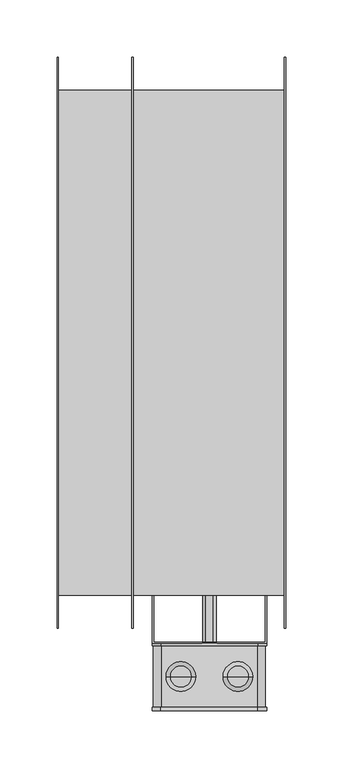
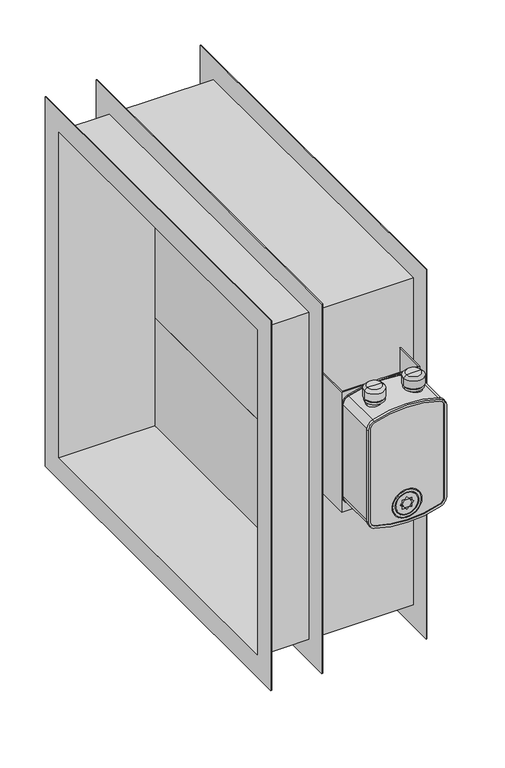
"""IFC4 building model written with IfcOpenShell, lengths in millimetres: damper geometry, СВ_КлапанПротивопожарныйЛифтовой_КДМ-2М-3-ЛС_НЗ_КанальныйПрямоугольный_СВОК : КДМ-3_Привод FS."""

from ifc_helpers import new_model, si_unit, point, frame, frame_2d, origin, place, context, project, spatial, polyline, circle_curve, trimmed, segment, composite_curve, outline, extrude, faceted_brep, source, transform, mapped, element, save
from ifc_brep_helpers import plane_surface, cylinder_surface, revolved_surface, advanced_brep


def damper_6541aed5(model_context):
    return source(origin(), model_context, "Body", "SolidModel", [
        extrude(outline(polyline([(43.3, -220.0), (23.3, -220.0), (23.3, 220.0), (43.3, 220.0), (43.3, -220.0)])), frame((0.0, 0.0, 73.3333333), z_axis=(0.0, 0.0, 1.0), x_axis=(1.0, 0.0, 0.0)), (0.0, 0.0, 1.0), 146.6666667),
        extrude(outline(polyline([(43.3, -220.0), (23.3, -220.0), (23.3, 220.0), (43.3, 220.0), (43.3, -220.0)])), frame((0.0, 0.0, -73.3333333), z_axis=(0.0, 0.0, 1.0), x_axis=(1.0, 0.0, 0.0)), (0.0, 0.0, 1.0), 146.6666667),
        extrude(outline(polyline([(43.3, -220.0), (23.3, -220.0), (23.3, 220.0), (43.3, 220.0), (43.3, -220.0)])), frame((0.0, 0.0, -220.0), z_axis=(0.0, 0.0, 1.0), x_axis=(1.0, 0.0, 0.0)), (0.0, 0.0, 1.0), 146.6666667),
        extrude(outline(polyline([(-15.5298911, -221.2), (-15.5298911, -262.0), (82.1, -262.0), (82.1, -221.2), (83.3, -221.2), (83.3, -263.2), (-16.7298911, -263.2), (-16.7298911, -221.2), (-15.5298911, -221.2)])), frame((0.0, 0.0, -30.0), z_axis=(0.0, 0.0, 1.0), x_axis=(1.0, 0.0, 0.0)), (0.0, 0.0, 1.0), 162.5),
        extrude(outline(composite_curve([segment(polyline([(116.1260091, -16.7298911), (-8.1260091, -16.7298911)]), True, "CONTINUOUS"), segment(trimmed(circle_curve(frame_2d((-8.1260091, -5.7)), 11.0298911), [point((-8.1260091, -16.7298911))], [point((-18.5819866, -9.2115572))], False, "CARTESIAN"), True, "CONTINUOUS"), segment(trimmed(circle_curve(frame_2d((108.0, 33.3)), 133.5298911), [point((-18.5819866, -9.2115572))], [point((-18.5819866, 75.8115572))], False, "CARTESIAN"), True, "CONTINUOUS"), segment(trimmed(circle_curve(frame_2d((-8.1260091, 72.3)), 11.0298911), [point((-18.5819866, 75.8115572))], [point((-8.1260091, 83.3298911))], False, "CARTESIAN"), True, "CONTINUOUS"), segment(polyline([(-8.1260091, 83.3298911), (116.1260091, 83.3298911)]), True, "CONTINUOUS"), segment(trimmed(circle_curve(frame_2d((116.1260091, 72.3)), 11.0298911), [point((116.1260091, 83.3298911))], [point((126.5819866, 75.8115572))], False, "CARTESIAN"), True, "CONTINUOUS"), segment(trimmed(circle_curve(frame_2d((0.0, 33.3)), 133.5298911), [point((126.5819866, 75.8115572))], [point((126.5819866, -9.2115572))], False, "CARTESIAN"), True, "CONTINUOUS"), segment(trimmed(circle_curve(frame_2d((116.1260091, -5.7)), 11.0298911), [point((126.5819866, -9.2115572))], [point((116.1260091, -16.7298911))], False, "CARTESIAN"), True, "CONTINUOUS")], self_intersect=False), holes=[composite_curve([segment(trimmed(circle_curve(frame_2d((108.0, 33.3)), 132.5), [point((-17.6056834, 75.4836735))], [point((-17.6056834, -8.8836735))], True, "CARTESIAN"), True, "CONTINUOUS"), segment(trimmed(circle_curve(frame_2d((-8.1260091, -5.7)), 10.0), [point((-17.6056834, -8.8836735))], [point((-8.1260091, -15.7))], True, "CARTESIAN"), True, "CONTINUOUS"), segment(polyline([(-8.1260091, -15.7), (116.1260091, -15.7)]), True, "CONTINUOUS"), segment(trimmed(circle_curve(frame_2d((116.1260091, -5.7)), 10.0), [point((116.1260091, -15.7))], [point((125.6056834, -8.8836735))], True, "CARTESIAN"), True, "CONTINUOUS"), segment(trimmed(circle_curve(frame_2d((0.0, 33.3)), 132.5), [point((125.6056834, -8.8836735))], [point((125.6056834, 75.4836735))], True, "CARTESIAN"), True, "CONTINUOUS"), segment(trimmed(circle_curve(frame_2d((116.1260091, 72.3)), 10.0), [point((125.6056834, 75.4836735))], [point((116.1260091, 82.3))], True, "CARTESIAN"), True, "CONTINUOUS"), segment(polyline([(116.1260091, 82.3), (-8.1260091, 82.3)]), True, "CONTINUOUS"), segment(trimmed(circle_curve(frame_2d((-8.1260091, 72.3)), 10.0), [point((-8.1260091, 82.3))], [point((-17.6056834, 75.4836735))], True, "CARTESIAN"), True, "CONTINUOUS")], self_intersect=False)]), frame((0.0, -265.2, 0.0), z_axis=(0.0, 1.0, 0.0), x_axis=(0.0, 0.0, 1.0)), (0.0, 0.0, 1.0), 2.0),
        advanced_brep(
        [(-8.8836735, -319.2, -17.6056834), (-15.7, -319.2, -8.1260091), (-15.7, -321.2, -8.1260091), (-8.8836735, -321.2, -17.6056834), (-9.2115572, -322.2, -18.5819866), (-16.7298911, -322.2, -8.1260091), (-16.7298911, -319.2, -8.1260091), (-9.2115572, -319.2, -18.5819866), (-8.2469388, -321.2, -15.7097485), (-13.7, -321.2, -8.1260091), (-13.7, -322.2, -8.1260091), (-8.2469388, -322.2, -15.7097485), (75.4836735, -319.2, -17.6056834), (75.4836735, -321.2, -17.6056834), (75.8115572, -322.2, -18.5819866), (75.8115572, -319.2, -18.5819866), (74.8469388, -321.2, -15.7097485), (74.8469388, -322.2, -15.7097485), (82.3, -319.2, -8.1260091), (82.3, -321.2, -8.1260091), (83.3298911, -322.2, -8.1260091), (83.3298911, -319.2, -8.1260091), (80.3, -321.2, -8.1260091), (80.3, -322.2, -8.1260091), (82.3, -321.2, 116.1260091), (82.3, -319.2, 116.1260091), (83.3298911, -319.2, 116.1260091), (83.3298911, -322.2, 116.1260091), (80.3, -322.2, 116.1260091), (80.3, -321.2, 116.1260091), (75.4836735, -319.2, 125.6056834), (75.4836735, -321.2, 125.6056834), (75.8115572, -322.2, 126.5819866), (75.8115572, -319.2, 126.5819866), (74.8469388, -321.2, 123.7097485), (74.8469388, -322.2, 123.7097485), (-8.8836735, -319.2, 125.6056834), (-8.8836735, -321.2, 125.6056834), (-9.2115572, -322.2, 126.5819866), (-9.2115572, -319.2, 126.5819866), (-8.2469388, -321.2, 123.7097485), (-8.2469388, -322.2, 123.7097485), (-15.7, -319.2, 116.1260091), (-15.7, -321.2, 116.1260091), (-16.7298911, -322.2, 116.1260091), (-16.7298911, -319.2, 116.1260091), (-13.7, -321.2, 116.1260091), (-13.7, -322.2, 116.1260091)],
        [
            (0, 1, circle_curve(frame((-5.7, -319.2, -8.1260091), z_axis=(0.0, 1.0, 0.0), x_axis=(-1.0, 0.0, 0.0)), 10.0)),
            (1, 2),
            (2, 3, circle_curve(frame((-5.7, -321.2, -8.1260091), z_axis=(0.0, -1.0, 0.0), x_axis=(-1.0, 0.0, 0.0)), 10.0)),
            (3, 0),
            (4, 5, circle_curve(frame((-5.7, -322.2, -8.1260091), z_axis=(0.0, 1.0, 0.0), x_axis=(-1.0, 0.0, 0.0)), 11.0298911)),
            (5, 6),
            (6, 7, circle_curve(frame((-5.7, -319.2, -8.1260091), z_axis=(0.0, -1.0, 0.0), x_axis=(-1.0, 0.0, 0.0)), 11.0298911)),
            (7, 4),
            (8, 9, circle_curve(frame((-5.7, -321.2, -8.1260091), z_axis=(0.0, 1.0, 0.0), x_axis=(-1.0, 0.0, 0.0)), 8.0)),
            (9, 10),
            (10, 11, circle_curve(frame((-5.7, -322.2, -8.1260091), z_axis=(0.0, -1.0, 0.0), x_axis=(-1.0, 0.0, 0.0)), 8.0)),
            (11, 8),
            (12, 0, circle_curve(frame((33.3, -319.2, 108.0), z_axis=(0.0, 1.0, 0.0), x_axis=(-0.31836734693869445, 0.0, -0.9479674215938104)), 132.5)),
            (3, 13, circle_curve(frame((33.3, -321.2, 108.0), z_axis=(0.0, -1.0, 0.0), x_axis=(-0.31836734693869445, 0.0, -0.9479674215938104)), 132.5)),
            (13, 12),
            (14, 4, circle_curve(frame((33.3, -322.2, 108.0), z_axis=(0.0, 1.0, 0.0), x_axis=(-0.31836734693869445, 0.0, -0.9479674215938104)), 133.5298911)),
            (7, 15, circle_curve(frame((33.3, -319.2, 108.0), z_axis=(0.0, -1.0, 0.0), x_axis=(-0.31836734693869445, 0.0, -0.9479674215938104)), 133.5298911)),
            (15, 14),
            (16, 8, circle_curve(frame((33.3, -321.2, 108.0), z_axis=(0.0, 1.0, 0.0), x_axis=(-0.31836734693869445, 0.0, -0.9479674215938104)), 130.5)),
            (11, 17, circle_curve(frame((33.3, -322.2, 108.0), z_axis=(0.0, -1.0, 0.0), x_axis=(-0.31836734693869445, 0.0, -0.9479674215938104)), 130.5)),
            (17, 16),
            (18, 12, circle_curve(frame((72.3, -319.2, -8.1260091), z_axis=(0.0, 1.0, 0.0), x_axis=(0.3183673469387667, 0.0, -0.947967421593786)), 10.0)),
            (13, 19, circle_curve(frame((72.3, -321.2, -8.1260091), z_axis=(0.0, -1.0, 0.0), x_axis=(0.3183673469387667, 0.0, -0.947967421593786)), 10.0)),
            (19, 18),
            (20, 14, circle_curve(frame((72.3, -322.2, -8.1260091), z_axis=(0.0, 1.0, 0.0), x_axis=(0.3183673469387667, 0.0, -0.947967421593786)), 11.0298911)),
            (15, 21, circle_curve(frame((72.3, -319.2, -8.1260091), z_axis=(0.0, -1.0, 0.0), x_axis=(0.3183673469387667, 0.0, -0.947967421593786)), 11.0298911)),
            (21, 20),
            (22, 16, circle_curve(frame((72.3, -321.2, -8.1260091), z_axis=(0.0, 1.0, 0.0), x_axis=(0.3183673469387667, 0.0, -0.947967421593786)), 8.0)),
            (17, 23, circle_curve(frame((72.3, -322.2, -8.1260091), z_axis=(0.0, -1.0, 0.0), x_axis=(0.3183673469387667, 0.0, -0.947967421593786)), 8.0)),
            (23, 22),
            (19, 24),
            (24, 25),
            (25, 18),
            (21, 26),
            (26, 27),
            (27, 20),
            (23, 28),
            (28, 29),
            (29, 22),
            (30, 25, circle_curve(frame((72.3, -319.2, 116.1260091), z_axis=(0.0, 1.0, 0.0), x_axis=(1.0, 0.0, 0.0)), 10.0)),
            (24, 31, circle_curve(frame((72.3, -321.2, 116.1260091), z_axis=(0.0, -1.0, 0.0), x_axis=(1.0, 0.0, 0.0)), 10.0)),
            (31, 30),
            (32, 27, circle_curve(frame((72.3, -322.2, 116.1260091), z_axis=(0.0, 1.0, 0.0), x_axis=(1.0, 0.0, 0.0)), 11.0298911)),
            (26, 33, circle_curve(frame((72.3, -319.2, 116.1260091), z_axis=(0.0, -1.0, 0.0), x_axis=(1.0, 0.0, 0.0)), 11.0298911)),
            (33, 32),
            (34, 29, circle_curve(frame((72.3, -321.2, 116.1260091), z_axis=(0.0, 1.0, 0.0), x_axis=(1.0, 0.0, 0.0)), 8.0)),
            (28, 35, circle_curve(frame((72.3, -322.2, 116.1260091), z_axis=(0.0, -1.0, 0.0), x_axis=(1.0, 0.0, 0.0)), 8.0)),
            (35, 34),
            (36, 30, circle_curve(frame((33.3, -319.2, 0.0), z_axis=(0.0, 1.0, 0.0), x_axis=(0.3183673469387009, 0.0, 0.9479674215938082)), 132.5)),
            (31, 37, circle_curve(frame((33.3, -321.2, 0.0), z_axis=(0.0, -1.0, 0.0), x_axis=(0.3183673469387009, 0.0, 0.9479674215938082)), 132.5)),
            (37, 36),
            (38, 32, circle_curve(frame((33.3, -322.2, 0.0), z_axis=(0.0, 1.0, 0.0), x_axis=(0.3183673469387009, 0.0, 0.9479674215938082)), 133.5298911)),
            (33, 39, circle_curve(frame((33.3, -319.2, 0.0), z_axis=(0.0, -1.0, 0.0), x_axis=(0.3183673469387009, 0.0, 0.9479674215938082)), 133.5298911)),
            (39, 38),
            (40, 34, circle_curve(frame((33.3, -321.2, 0.0), z_axis=(0.0, 1.0, 0.0), x_axis=(0.3183673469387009, 0.0, 0.9479674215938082)), 130.5)),
            (35, 41, circle_curve(frame((33.3, -322.2, 0.0), z_axis=(0.0, -1.0, 0.0), x_axis=(0.3183673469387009, 0.0, 0.9479674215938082)), 130.5)),
            (41, 40),
            (42, 36, circle_curve(frame((-5.7, -319.2, 116.1260091), z_axis=(0.0, 1.0, 0.0), x_axis=(-0.3183673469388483, 0.0, 0.9479674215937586)), 10.0)),
            (37, 43, circle_curve(frame((-5.7, -321.2, 116.1260091), z_axis=(0.0, -1.0, 0.0), x_axis=(-0.3183673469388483, 0.0, 0.9479674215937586)), 10.0)),
            (43, 42),
            (44, 38, circle_curve(frame((-5.7, -322.2, 116.1260091), z_axis=(0.0, 1.0, 0.0), x_axis=(-0.3183673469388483, 0.0, 0.9479674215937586)), 11.0298911)),
            (39, 45, circle_curve(frame((-5.7, -319.2, 116.1260091), z_axis=(0.0, -1.0, 0.0), x_axis=(-0.3183673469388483, 0.0, 0.9479674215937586)), 11.0298911)),
            (45, 44),
            (46, 40, circle_curve(frame((-5.7, -321.2, 116.1260091), z_axis=(0.0, 1.0, 0.0), x_axis=(-0.3183673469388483, 0.0, 0.9479674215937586)), 8.0)),
            (41, 47, circle_curve(frame((-5.7, -322.2, 116.1260091), z_axis=(0.0, -1.0, 0.0), x_axis=(-0.3183673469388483, 0.0, 0.9479674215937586)), 8.0)),
            (47, 46),
            (2, 43),
            (46, 9),
            (1, 42),
            (6, 45),
            (5, 44),
            (10, 47),
        ],
        [
            revolved_surface(polyline([(-15.7, -321.2, -8.1260091), (-15.7, -319.2, -8.1260091)]), (-5.7, -321.2, -8.1260091), (0.0, -1.0, 0.0)),
            cylinder_surface(frame((-5.7, -321.2, -8.1260091), z_axis=(0.0, -1.0, 0.0), x_axis=(-1.0, 0.0, 0.0)), 11.0298911),
            revolved_surface(polyline([(-13.7, -322.2, -8.1260091), (-13.7, -321.2, -8.1260091)]), (-5.7, -321.2, -8.1260091), (0.0, -1.0, 0.0)),
            revolved_surface(polyline([(-8.883673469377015, -321.2, -17.605683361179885), (-8.883673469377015, -319.2, -17.605683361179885)]), (33.3, -321.2, 108.0), (0.0, -1.0, 0.0)),
            cylinder_surface(frame((33.3, -321.2, 108.0), z_axis=(0.0, -1.0, 0.0), x_axis=(-0.31836734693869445, 0.0, -0.9479674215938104)), 133.5298911),
            revolved_surface(polyline([(-8.246938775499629, -322.2, -15.709748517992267), (-8.246938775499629, -321.2, -15.709748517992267)]), (33.3, -321.2, 108.0), (0.0, -1.0, 0.0)),
            revolved_surface(polyline([(75.48367346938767, -321.2, -17.60568331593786), (75.48367346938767, -319.2, -17.60568331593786)]), (72.3, -321.2, -8.1260091), (0.0, -1.0, 0.0)),
            cylinder_surface(frame((72.3, -321.2, -8.1260091), z_axis=(0.0, -1.0, 0.0), x_axis=(0.3183673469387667, 0.0, -0.947967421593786)), 11.0298911),
            revolved_surface(polyline([(74.84693877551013, -322.2, -15.709748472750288), (74.84693877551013, -321.2, -15.709748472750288)]), (72.3, -321.2, -8.1260091), (0.0, -1.0, 0.0)),
            plane_surface(frame((82.3, -321.2, -8.1260091), z_axis=(-1.0, 0.0, 0.0), x_axis=(0.0, 0.0, 1.0))),
            plane_surface(frame((83.3298911, -319.2, -8.1260091), z_axis=(1.0, 0.0, 0.0), x_axis=(0.0, 0.0, 1.0))),
            plane_surface(frame((80.3, -322.2, -8.1260091), z_axis=(-1.0, 0.0, 0.0), x_axis=(0.0, 0.0, 1.0))),
            revolved_surface(polyline([(82.3, -321.2, 116.1260091), (82.3, -319.2, 116.1260091)]), (72.3, -321.2, 116.1260091), (0.0, -1.0, 0.0)),
            cylinder_surface(frame((72.3, -321.2, 116.1260091), z_axis=(0.0, -1.0, 0.0), x_axis=(1.0, 0.0, 0.0)), 11.0298911),
            revolved_surface(polyline([(80.3, -322.2, 116.1260091), (80.3, -321.2, 116.1260091)]), (72.3, -321.2, 116.1260091), (0.0, -1.0, 0.0)),
            revolved_surface(polyline([(75.48367346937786, -321.2, 125.60568336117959), (75.48367346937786, -319.2, 125.60568336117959)]), (33.3, -321.2, 0.0), (0.0, -1.0, 0.0)),
            cylinder_surface(frame((33.3, -321.2, 0.0), z_axis=(0.0, -1.0, 0.0), x_axis=(0.3183673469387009, 0.0, 0.9479674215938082)), 133.5298911),
            revolved_surface(polyline([(74.84693877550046, -322.2, 123.70974851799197), (74.84693877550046, -321.2, 123.70974851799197)]), (33.3, -321.2, 0.0), (0.0, -1.0, 0.0)),
            revolved_surface(polyline([(-8.883673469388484, -321.2, 125.6056833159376), (-8.883673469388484, -319.2, 125.6056833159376)]), (-5.7, -321.2, 116.1260091), (0.0, -1.0, 0.0)),
            cylinder_surface(frame((-5.7, -321.2, 116.1260091), z_axis=(0.0, -1.0, 0.0), x_axis=(-0.3183673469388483, 0.0, 0.9479674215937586)), 11.0298911),
            revolved_surface(polyline([(-8.246938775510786, -322.2, 123.70974847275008), (-8.246938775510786, -321.2, 123.70974847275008)]), (-5.7, -321.2, 116.1260091), (0.0, -1.0, 0.0)),
            plane_surface(frame((-13.7, -321.2, 116.1260091), z_axis=(0.0, 1.0, 0.0), x_axis=(0.0, 0.0, -1.0))),
            plane_surface(frame((-15.7, -321.2, 116.1260091), z_axis=(1.0, 0.0, 0.0), x_axis=(0.0, 0.0, -1.0))),
            plane_surface(frame((-15.7, -319.2, 116.1260091), z_axis=(0.0, 1.0, 0.0), x_axis=(0.0, 0.0, -1.0))),
            plane_surface(frame((-16.7298911, -319.2, 116.1260091), z_axis=(-1.0, 0.0, 0.0), x_axis=(0.0, 0.0, -1.0))),
            plane_surface(frame((-16.7298911, -322.2, 116.1260091), z_axis=(0.0, -1.0, 0.0), x_axis=(0.0, 0.0, -1.0))),
            plane_surface(frame((-13.7, -322.2, 116.1260091), z_axis=(1.0, 0.0, 0.0), x_axis=(0.0, 0.0, -1.0))),
        ],
        [
            (0, [[1, 2, 3, 4]]),
            (1, [[5, 6, 7, 8]]),
            (2, [[9, 10, 11, 12]]),
            (3, [[13, -4, 14, 15]]),
            (4, [[16, -8, 17, 18]]),
            (5, [[19, -12, 20, 21]]),
            (6, [[22, -15, 23, 24]]),
            (7, [[25, -18, 26, 27]]),
            (8, [[28, -21, 29, 30]]),
            (9, [[-24, 31, 32, 33]]),
            (10, [[-27, 34, 35, 36]]),
            (11, [[-30, 37, 38, 39]]),
            (12, [[40, -32, 41, 42]]),
            (13, [[43, -35, 44, 45]]),
            (14, [[46, -38, 47, 48]]),
            (15, [[49, -42, 50, 51]]),
            (16, [[52, -45, 53, 54]]),
            (17, [[55, -48, 56, 57]]),
            (18, [[58, -51, 59, 60]]),
            (19, [[61, -54, 62, 63]]),
            (20, [[64, -57, 65, 66]]),
            (21, [[67, -59, -50, -41, -31, -23, -14, -3], [-55, -64, 68, -9, -19, -28, -39, -46]]),
            (22, [[-60, -67, -2, 69]]),
            (23, [[70, -62, -53, -44, -34, -26, -17, -7], [-49, -58, -69, -1, -13, -22, -33, -40]]),
            (24, [[-63, -70, -6, 71]]),
            (25, [[-52, -61, -71, -5, -16, -25, -36, -43], [72, -65, -56, -47, -37, -29, -20, -11]]),
            (26, [[-66, -72, -10, -68]]),
        ],
    ),
        advanced_brep(
        [(18.3, -292.2, 132.5), (-1.7, -292.2, 132.5), (-3.6771465, -292.2, 132.5), (20.2771465, -292.2, 132.5), (-3.6771465, -292.2, 135.4915282), (20.2771465, -292.2, 135.4915282), (0.3228535, -292.2, 135.4915282), (16.2771465, -292.2, 135.4915282), (0.3228535, -292.2, 137.4754985), (16.2771465, -292.2, 137.4754985), (-4.6771465, -292.2, 137.4754985), (21.2771465, -292.2, 137.4754985), (-4.6771465, -292.2, 147.4754985), (21.2771465, -292.2, 147.4754985), (-1.1416126, -292.2, 151.0110324), (17.7416126, -292.2, 151.0110324), (8.3, -292.2, 151.0110324), (8.3, -292.2, 120.900028), (-1.7, -292.2, 120.900028), (18.3, -292.2, 120.900028)],
        [
            (0, 1, circle_curve(frame((8.3, -292.2, 132.5), z_axis=(0.0, 0.0, 1.0), x_axis=(-1.0, 0.0, 0.0)), 10.0)),
            (1, 2),
            (2, 3, circle_curve(frame((8.3, -292.2, 132.5), z_axis=(0.0, 0.0, -1.0), x_axis=(-1.0, 0.0, 0.0)), 11.9771465)),
            (3, 0),
            (1, 0, circle_curve(frame((8.3, -292.2, 132.5), z_axis=(0.0, 0.0, 1.0), x_axis=(-1.0, 0.0, 0.0)), 10.0)),
            (3, 2, circle_curve(frame((8.3, -292.2, 132.5), z_axis=(0.0, 0.0, -1.0), x_axis=(-1.0, 0.0, 0.0)), 11.9771465)),
            (2, 4),
            (4, 5, circle_curve(frame((8.3, -292.2, 135.4915282), z_axis=(0.0, 0.0, -1.0), x_axis=(-1.0, 0.0, 0.0)), 11.9771465)),
            (5, 3),
            (5, 4, circle_curve(frame((8.3, -292.2, 135.4915282), z_axis=(0.0, 0.0, -1.0), x_axis=(-1.0, 0.0, 0.0)), 11.9771465)),
            (4, 6),
            (6, 7, circle_curve(frame((8.3, -292.2, 135.4915282), z_axis=(0.0, 0.0, -1.0), x_axis=(-1.0, 0.0, 0.0)), 7.9771465)),
            (7, 5),
            (7, 6, circle_curve(frame((8.3, -292.2, 135.4915282), z_axis=(0.0, 0.0, -1.0), x_axis=(-1.0, 0.0, 0.0)), 7.9771465)),
            (6, 8),
            (8, 9, circle_curve(frame((8.3, -292.2, 137.4754985), z_axis=(0.0, 0.0, -1.0), x_axis=(-1.0, 0.0, 0.0)), 7.9771465)),
            (9, 7),
            (9, 8, circle_curve(frame((8.3, -292.2, 137.4754985), z_axis=(0.0, 0.0, -1.0), x_axis=(-1.0, 0.0, 0.0)), 7.9771465)),
            (8, 10),
            (10, 11, circle_curve(frame((8.3, -292.2, 137.4754985), z_axis=(0.0, 0.0, -1.0), x_axis=(-1.0, 0.0, 0.0)), 12.9771465)),
            (11, 9),
            (11, 10, circle_curve(frame((8.3, -292.2, 137.4754985), z_axis=(0.0, 0.0, -1.0), x_axis=(-1.0, 0.0, 0.0)), 12.9771465)),
            (10, 12),
            (12, 13, circle_curve(frame((8.3, -292.2, 147.4754985), z_axis=(0.0, 0.0, -1.0), x_axis=(-1.0, 0.0, 0.0)), 12.9771465)),
            (13, 11),
            (13, 12, circle_curve(frame((8.3, -292.2, 147.4754985), z_axis=(0.0, 0.0, -1.0), x_axis=(-1.0, 0.0, 0.0)), 12.9771465)),
            (12, 14),
            (14, 15, circle_curve(frame((8.3, -292.2, 151.0110324), z_axis=(0.0, 0.0, -1.0), x_axis=(-1.0, 0.0, 0.0)), 9.4416126)),
            (15, 13),
            (15, 14, circle_curve(frame((8.3, -292.2, 151.0110324), z_axis=(0.0, 0.0, -1.0), x_axis=(-1.0, 0.0, 0.0)), 9.4416126)),
            (14, 16),
            (16, 15),
            (17, 18),
            (18, 19, circle_curve(frame((8.3, -292.2, 120.900028), z_axis=(0.0, 0.0, -1.0), x_axis=(-1.0, 0.0, 0.0)), 10.0)),
            (19, 17),
            (19, 18, circle_curve(frame((8.3, -292.2, 120.900028), z_axis=(0.0, 0.0, -1.0), x_axis=(-1.0, 0.0, 0.0)), 10.0)),
            (18, 1),
            (0, 19),
        ],
        [
            plane_surface(frame((8.3, -292.2, 132.5), z_axis=(0.0, 0.0, -1.0), x_axis=(-1.0, 0.0, 0.0))),
            cylinder_surface(frame((8.3, -292.2, 461.314844), z_axis=(0.0, 0.0, -1.0), x_axis=(-1.0, 0.0, 0.0)), 11.9771465),
            plane_surface(frame((8.3, -292.2, 135.4915282), z_axis=(0.0, 0.0, 1.0), x_axis=(-1.0, 0.0, 0.0))),
            cylinder_surface(frame((8.3, -292.2, 461.314844), z_axis=(0.0, 0.0, -1.0), x_axis=(-1.0, 0.0, 0.0)), 7.9771465),
            plane_surface(frame((8.3, -292.2, 137.4754985), z_axis=(0.0, 0.0, -1.0), x_axis=(-1.0, 0.0, 0.0))),
            cylinder_surface(frame((8.3, -292.2, 461.314844), z_axis=(0.0, 0.0, -1.0), x_axis=(-1.0, 0.0, 0.0)), 12.9771465),
            revolved_surface(polyline([(-1.1416126, -292.2, 151.0110324), (-4.6771465, -292.2, 147.4754985)]), (8.3, -292.2, 461.314844), (0.0, 0.0, -1.0)),
            plane_surface(frame((8.3, -292.2, 151.0110324), z_axis=(0.0, 0.0, 1.0), x_axis=(-1.0, 0.0, 0.0))),
            plane_surface(frame((8.3, -292.2, 120.900028), z_axis=(0.0, 0.0, -1.0), x_axis=(-1.0, 0.0, 0.0))),
            cylinder_surface(frame((8.3, -292.2, 461.314844), z_axis=(0.0, 0.0, -1.0), x_axis=(-1.0, 0.0, 0.0)), 10.0),
        ],
        [
            (0, [[1, 2, 3, 4]]),
            (0, [[5, -4, 6, -2]]),
            (1, [[-3, 7, 8, 9]]),
            (1, [[-6, -9, 10, -7]]),
            (2, [[-8, 11, 12, 13]]),
            (2, [[-10, -13, 14, -11]]),
            (3, [[-12, 15, 16, 17]]),
            (3, [[-14, -17, 18, -15]]),
            (4, [[-16, 19, 20, 21]]),
            (4, [[-18, -21, 22, -19]]),
            (5, [[-20, 23, 24, 25]]),
            (5, [[-22, -25, 26, -23]]),
            (6, [[-24, 27, 28, 29]]),
            (6, [[-26, -29, 30, -27]]),
            (7, [[-28, 31, 32]]),
            (7, [[-30, -32, -31]]),
            (8, [[33, 34, 35]]),
            (8, [[-35, 36, -33]]),
            (9, [[-34, 37, -1, 38]]),
            (9, [[-36, -38, -5, -37]]),
        ],
    ),
        advanced_brep(
        [(46.3228535, -292.2, 132.5), (70.2771465, -292.2, 132.5), (68.3, -292.2, 132.5), (48.3, -292.2, 132.5), (46.3228535, -292.2, 135.4915282), (70.2771465, -292.2, 135.4915282), (50.3228535, -292.2, 135.4915282), (66.2771465, -292.2, 135.4915282), (50.3228535, -292.2, 137.4754985), (66.2771465, -292.2, 137.4754985), (45.3228535, -292.2, 137.4754985), (71.2771465, -292.2, 137.4754985), (45.3228535, -292.2, 147.4754985), (71.2771465, -292.2, 147.4754985), (48.8583874, -292.2, 151.0110324), (67.7416126, -292.2, 151.0110324), (58.3, -292.2, 151.0110324), (48.3, -292.2, 120.900028), (68.3, -292.2, 120.900028), (58.3, -292.2, 120.900028)],
        [
            (0, 1, circle_curve(frame((58.3, -292.2, 132.5), z_axis=(0.0, 0.0, -1.0), x_axis=(1.0, 0.0, 0.0)), 11.9771465)),
            (1, 2),
            (2, 3, circle_curve(frame((58.3, -292.2, 132.5), z_axis=(0.0, 0.0, 1.0), x_axis=(1.0, 0.0, 0.0)), 10.0)),
            (3, 0),
            (1, 0, circle_curve(frame((58.3, -292.2, 132.5), z_axis=(0.0, 0.0, -1.0), x_axis=(1.0, 0.0, 0.0)), 11.9771465)),
            (3, 2, circle_curve(frame((58.3, -292.2, 132.5), z_axis=(0.0, 0.0, 1.0), x_axis=(1.0, 0.0, 0.0)), 10.0)),
            (4, 5, circle_curve(frame((58.3, -292.2, 135.4915282), z_axis=(0.0, 0.0, -1.0), x_axis=(1.0, 0.0, 0.0)), 11.9771465)),
            (5, 1),
            (0, 4),
            (5, 4, circle_curve(frame((58.3, -292.2, 135.4915282), z_axis=(0.0, 0.0, -1.0), x_axis=(1.0, 0.0, 0.0)), 11.9771465)),
            (6, 7, circle_curve(frame((58.3, -292.2, 135.4915282), z_axis=(0.0, 0.0, -1.0), x_axis=(1.0, 0.0, 0.0)), 7.9771465)),
            (7, 5),
            (4, 6),
            (7, 6, circle_curve(frame((58.3, -292.2, 135.4915282), z_axis=(0.0, 0.0, -1.0), x_axis=(1.0, 0.0, 0.0)), 7.9771465)),
            (8, 9, circle_curve(frame((58.3, -292.2, 137.4754985), z_axis=(0.0, 0.0, -1.0), x_axis=(1.0, 0.0, 0.0)), 7.9771465)),
            (9, 7),
            (6, 8),
            (9, 8, circle_curve(frame((58.3, -292.2, 137.4754985), z_axis=(0.0, 0.0, -1.0), x_axis=(1.0, 0.0, 0.0)), 7.9771465)),
            (10, 11, circle_curve(frame((58.3, -292.2, 137.4754985), z_axis=(0.0, 0.0, -1.0), x_axis=(1.0, 0.0, 0.0)), 12.9771465)),
            (11, 9),
            (8, 10),
            (11, 10, circle_curve(frame((58.3, -292.2, 137.4754985), z_axis=(0.0, 0.0, -1.0), x_axis=(1.0, 0.0, 0.0)), 12.9771465)),
            (12, 13, circle_curve(frame((58.3, -292.2, 147.4754985), z_axis=(0.0, 0.0, -1.0), x_axis=(1.0, 0.0, 0.0)), 12.9771465)),
            (13, 11),
            (10, 12),
            (13, 12, circle_curve(frame((58.3, -292.2, 147.4754985), z_axis=(0.0, 0.0, -1.0), x_axis=(1.0, 0.0, 0.0)), 12.9771465)),
            (14, 15, circle_curve(frame((58.3, -292.2, 151.0110324), z_axis=(0.0, 0.0, -1.0), x_axis=(1.0, 0.0, 0.0)), 9.4416126)),
            (15, 13),
            (12, 14),
            (15, 14, circle_curve(frame((58.3, -292.2, 151.0110324), z_axis=(0.0, 0.0, -1.0), x_axis=(1.0, 0.0, 0.0)), 9.4416126)),
            (16, 15),
            (14, 16),
            (17, 18, circle_curve(frame((58.3, -292.2, 120.900028), z_axis=(0.0, 0.0, -1.0), x_axis=(1.0, 0.0, 0.0)), 10.0)),
            (18, 19),
            (19, 17),
            (18, 17, circle_curve(frame((58.3, -292.2, 120.900028), z_axis=(0.0, 0.0, -1.0), x_axis=(1.0, 0.0, 0.0)), 10.0)),
            (2, 18),
            (17, 3),
        ],
        [
            plane_surface(frame((58.3, -292.2, 132.5), z_axis=(0.0, 0.0, -1.0), x_axis=(1.0, 0.0, 0.0))),
            cylinder_surface(frame((58.3, -292.2, 461.314844), z_axis=(0.0, 0.0, 1.0), x_axis=(1.0, 0.0, 0.0)), 11.9771465),
            plane_surface(frame((58.3, -292.2, 135.4915282), z_axis=(0.0, 0.0, 1.0), x_axis=(1.0, 0.0, 0.0))),
            cylinder_surface(frame((58.3, -292.2, 461.314844), z_axis=(0.0, 0.0, 1.0), x_axis=(1.0, 0.0, 0.0)), 7.9771465),
            plane_surface(frame((58.3, -292.2, 137.4754985), z_axis=(0.0, 0.0, -1.0), x_axis=(1.0, 0.0, 0.0))),
            cylinder_surface(frame((58.3, -292.2, 461.314844), z_axis=(0.0, 0.0, 1.0), x_axis=(1.0, 0.0, 0.0)), 12.9771465),
            revolved_surface(polyline([(71.2771465, -292.2, 147.4754985), (67.7416126, -292.2, 151.0110324)]), (58.3, -292.2, 461.314844), (0.0, 0.0, 1.0)),
            plane_surface(frame((58.3, -292.2, 151.0110324), z_axis=(0.0, 0.0, 1.0), x_axis=(1.0, 0.0, 0.0))),
            plane_surface(frame((58.3, -292.2, 120.900028), z_axis=(0.0, 0.0, -1.0), x_axis=(1.0, 0.0, 0.0))),
            cylinder_surface(frame((58.3, -292.2, 461.314844), z_axis=(0.0, 0.0, 1.0), x_axis=(1.0, 0.0, 0.0)), 10.0),
        ],
        [
            (0, [[1, 2, 3, 4]]),
            (0, [[5, -4, 6, -2]]),
            (1, [[7, 8, -1, 9]]),
            (1, [[10, -9, -5, -8]]),
            (2, [[11, 12, -7, 13]]),
            (2, [[14, -13, -10, -12]]),
            (3, [[15, 16, -11, 17]]),
            (3, [[18, -17, -14, -16]]),
            (4, [[19, 20, -15, 21]]),
            (4, [[22, -21, -18, -20]]),
            (5, [[23, 24, -19, 25]]),
            (5, [[26, -25, -22, -24]]),
            (6, [[27, 28, -23, 29]]),
            (6, [[30, -29, -26, -28]]),
            (7, [[31, -27, 32]]),
            (7, [[-32, -30, -31]]),
            (8, [[33, 34, 35]]),
            (8, [[36, -35, -34]]),
            (9, [[-3, 37, -33, 38]]),
            (9, [[-6, -38, -36, -37]]),
        ],
    ),
        extrude(outline(polyline([(5.1832695, 36.2925621), (5.1832695, 30.3074379), (0.0, 27.3148759), (-5.1832695, 30.3074379), (-5.1832695, 36.2925621), (0.0, 39.2851241), (5.1832695, 36.2925621)])), frame((0.0, -321.2, 0.0), z_axis=(0.0, 1.0, 0.0), x_axis=(0.0, 0.0, 1.0)), (0.0, 0.0, 1.0), 100.0),
        advanced_brep(
        [(-8.8836735, -321.2, 125.6056834), (-15.7, -321.2, 116.1260091), (-15.7, -321.2, -8.1260091), (-8.8836735, -321.2, -17.6056834), (75.4836735, -321.2, -17.6056834), (82.3, -321.2, -8.1260091), (82.3, -321.2, 116.1260091), (75.4836735, -321.2, 125.6056834), (33.3, -321.2, 19.0), (33.3, -321.2, -19.0), (33.3, -321.2, 18.0), (33.3, -321.2, -18.0), (33.3, -321.2, 15.0), (33.3, -321.2, -15.0), (33.3, -321.2, 14.0), (33.3, -321.2, -14.0), (27.3045537, -321.2, -5.9954463), (27.3045537, -321.2, -2.4898351), (24.8147186, -321.2, 0.0), (27.3045537, -321.2, 2.4898351), (27.3045537, -321.2, 5.9954463), (30.8101649, -321.2, 5.9954463), (33.3, -321.2, 8.4852814), (35.7898351, -321.2, 5.9954463), (39.2954463, -321.2, 5.9954463), (39.2954463, -321.2, 2.4898351), (41.7852814, -321.2, 0.0), (39.2954463, -321.2, -2.4898351), (39.2954463, -321.2, -5.9954463), (35.7898351, -321.2, -5.9954463), (33.3, -321.2, -8.4852814), (30.8101649, -321.2, -5.9954463), (-8.8836735, -263.2, 125.6056834), (75.4836735, -263.2, 125.6056834), (82.3, -263.2, 116.1260091), (82.3, -263.2, -8.1260091), (75.4836735, -263.2, -17.6056834), (-8.8836735, -263.2, -17.6056834), (-15.7, -263.2, -8.1260091), (-15.7, -263.2, 116.1260091), (33.3, -316.2, -19.0), (33.3, -316.2, 19.0), (33.3, -316.2, -18.0), (33.3, -316.2, 18.0), (33.3, -316.2, -15.0), (33.3, -316.2, 15.0), (33.3, -316.2, -14.0), (33.3, -316.2, 14.0), (27.3045537, -316.2, -2.4898351), (27.3045537, -316.2, -5.9954463), (30.8101649, -316.2, -5.9954463), (33.3, -316.2, -8.4852814), (35.7898351, -316.2, -5.9954463), (39.2954463, -316.2, -5.9954463), (39.2954463, -316.2, -2.4898351), (41.7852814, -316.2, 0.0), (39.2954463, -316.2, 2.4898351), (39.2954463, -316.2, 5.9954463), (35.7898351, -316.2, 5.9954463), (33.3, -316.2, 8.4852814), (30.8101649, -316.2, 5.9954463), (27.3045537, -316.2, 5.9954463), (27.3045537, -316.2, 2.4898351), (24.8147186, -316.2, 0.0)],
        [
            (0, 1, circle_curve(frame((-5.7, -321.2, 116.1260091), z_axis=(0.0, -1.0, 0.0), x_axis=(0.0, 0.0, 1.0)), 10.0)),
            (1, 2),
            (2, 3, circle_curve(frame((-5.7, -321.2, -8.1260091), z_axis=(0.0, -1.0, 0.0), x_axis=(0.0, 0.0, 1.0)), 10.0)),
            (3, 4, circle_curve(frame((33.3, -321.2, 108.0), z_axis=(0.0, -1.0, 0.0), x_axis=(0.0, 0.0, 1.0)), 132.5)),
            (4, 5, circle_curve(frame((72.3, -321.2, -8.1260091), z_axis=(0.0, -1.0, 0.0), x_axis=(0.0, 0.0, 1.0)), 10.0)),
            (5, 6),
            (6, 7, circle_curve(frame((72.3, -321.2, 116.1260091), z_axis=(0.0, -1.0, 0.0), x_axis=(0.0, 0.0, 1.0)), 10.0)),
            (7, 0, circle_curve(frame((33.3, -321.2, 0.0), z_axis=(0.0, -1.0, 0.0), x_axis=(0.0, 0.0, 1.0)), 132.5)),
            (8, 9, circle_curve(frame((33.3, -321.2, 0.0), z_axis=(0.0, 1.0, 0.0), x_axis=(0.0, 0.0, 1.0)), 19.0)),
            (9, 8, circle_curve(frame((33.3, -321.2, 0.0), z_axis=(0.0, 1.0, 0.0), x_axis=(0.0, 0.0, 1.0)), 19.0)),
            (10, 11, circle_curve(frame((33.3, -321.2, 0.0), z_axis=(0.0, -1.0, 0.0), x_axis=(0.0, 0.0, 1.0)), 18.0)),
            (11, 10, circle_curve(frame((33.3, -321.2, 0.0), z_axis=(0.0, -1.0, 0.0), x_axis=(0.0, 0.0, 1.0)), 18.0)),
            (12, 13, circle_curve(frame((33.3, -321.2, 0.0), z_axis=(0.0, 1.0, 0.0), x_axis=(0.0, 0.0, 1.0)), 15.0)),
            (13, 12, circle_curve(frame((33.3, -321.2, 0.0), z_axis=(0.0, 1.0, 0.0), x_axis=(0.0, 0.0, 1.0)), 15.0)),
            (14, 15, circle_curve(frame((33.3, -321.2, 0.0), z_axis=(0.0, -1.0, 0.0), x_axis=(0.0, 0.0, 1.0)), 14.0)),
            (15, 14, circle_curve(frame((33.3, -321.2, 0.0), z_axis=(0.0, -1.0, 0.0), x_axis=(0.0, 0.0, 1.0)), 14.0)),
            (16, 17),
            (17, 18),
            (18, 19),
            (19, 20),
            (20, 21),
            (21, 22),
            (22, 23),
            (23, 24),
            (24, 25),
            (25, 26),
            (26, 27),
            (27, 28),
            (28, 29),
            (29, 30),
            (30, 31),
            (31, 16),
            (32, 33, circle_curve(frame((33.3, -263.2, 0.0), z_axis=(0.0, 1.0, 0.0), x_axis=(0.0, 0.0, 1.0)), 132.5)),
            (33, 34, circle_curve(frame((72.3, -263.2, 116.1260091), z_axis=(0.0, 1.0, 0.0), x_axis=(0.0, 0.0, 1.0)), 10.0)),
            (34, 35),
            (35, 36, circle_curve(frame((72.3, -263.2, -8.1260091), z_axis=(0.0, 1.0, 0.0), x_axis=(0.0, 0.0, 1.0)), 10.0)),
            (36, 37, circle_curve(frame((33.3, -263.2, 108.0), z_axis=(0.0, 1.0, 0.0), x_axis=(0.0, 0.0, 1.0)), 132.5)),
            (37, 38, circle_curve(frame((-5.7, -263.2, -8.1260091), z_axis=(0.0, 1.0, 0.0), x_axis=(0.0, 0.0, 1.0)), 10.0)),
            (38, 39),
            (39, 32, circle_curve(frame((-5.7, -263.2, 116.1260091), z_axis=(0.0, 1.0, 0.0), x_axis=(0.0, 0.0, 1.0)), 10.0)),
            (0, 32),
            (39, 1),
            (38, 2),
            (37, 3),
            (36, 4),
            (35, 5),
            (34, 6),
            (33, 7),
            (40, 41, circle_curve(frame((33.3, -316.2, 0.0), z_axis=(0.0, -1.0, 0.0), x_axis=(0.0, 0.0, 1.0)), 19.0)),
            (41, 40, circle_curve(frame((33.3, -316.2, 0.0), z_axis=(0.0, -1.0, 0.0), x_axis=(0.0, 0.0, 1.0)), 19.0)),
            (42, 43, circle_curve(frame((33.3, -316.2, 0.0), z_axis=(0.0, 1.0, 0.0), x_axis=(0.0, 0.0, 1.0)), 18.0)),
            (43, 42, circle_curve(frame((33.3, -316.2, 0.0), z_axis=(0.0, 1.0, 0.0), x_axis=(0.0, 0.0, 1.0)), 18.0)),
            (44, 45, circle_curve(frame((33.3, -316.2, 0.0), z_axis=(0.0, -1.0, 0.0), x_axis=(0.0, 0.0, 1.0)), 15.0)),
            (45, 44, circle_curve(frame((33.3, -316.2, 0.0), z_axis=(0.0, -1.0, 0.0), x_axis=(0.0, 0.0, 1.0)), 15.0)),
            (46, 47, circle_curve(frame((33.3, -316.2, 0.0), z_axis=(0.0, 1.0, 0.0), x_axis=(0.0, 0.0, 1.0)), 14.0)),
            (47, 46, circle_curve(frame((33.3, -316.2, 0.0), z_axis=(0.0, 1.0, 0.0), x_axis=(0.0, 0.0, 1.0)), 14.0)),
            (48, 49),
            (49, 50),
            (50, 51),
            (51, 52),
            (52, 53),
            (53, 54),
            (54, 55),
            (55, 56),
            (56, 57),
            (57, 58),
            (58, 59),
            (59, 60),
            (60, 61),
            (61, 62),
            (62, 63),
            (63, 48),
            (40, 9),
            (8, 41),
            (42, 11),
            (10, 43),
            (44, 13),
            (12, 45),
            (46, 15),
            (14, 47),
            (48, 17),
            (16, 49),
            (31, 50),
            (30, 51),
            (29, 52),
            (28, 53),
            (27, 54),
            (26, 55),
            (25, 56),
            (24, 57),
            (23, 58),
            (22, 59),
            (21, 60),
            (20, 61),
            (19, 62),
            (18, 63),
        ],
        [
            plane_surface(frame((-5.7, -321.2, 126.1260091), z_axis=(0.0, -1.0, 0.0), x_axis=(-1.0, 0.0, 0.0))),
            plane_surface(frame((-5.7, -263.2, 126.1260091), z_axis=(0.0, 1.0, 0.0), x_axis=(1.0, 0.0, 0.0))),
            cylinder_surface(frame((-5.7, -263.2, 116.1260091), z_axis=(0.0, -1.0, 0.0), x_axis=(0.0, 0.0, 1.0)), 10.0),
            plane_surface(frame((-15.7, -321.2, 116.1260091), z_axis=(-1.0, 0.0, 0.0), x_axis=(0.0, 1.0, 0.0))),
            cylinder_surface(frame((-5.7, -263.2, -8.1260091), z_axis=(0.0, -1.0, 0.0), x_axis=(0.0, 0.0, 1.0)), 10.0),
            cylinder_surface(frame((33.3, -263.2, 108.0), z_axis=(0.0, -1.0, 0.0), x_axis=(0.0, 0.0, 1.0)), 132.5),
            cylinder_surface(frame((72.3, -263.2, -8.1260091), z_axis=(0.0, -1.0, 0.0), x_axis=(0.0, 0.0, 1.0)), 10.0),
            plane_surface(frame((82.3, -321.2, -8.1260091), z_axis=(1.0, 0.0, 0.0), x_axis=(0.0, 1.0, 0.0))),
            cylinder_surface(frame((72.3, -263.2, 116.1260091), z_axis=(0.0, -1.0, 0.0), x_axis=(0.0, 0.0, 1.0)), 10.0),
            cylinder_surface(frame((33.3, -263.2, 0.0), z_axis=(0.0, -1.0, 0.0), x_axis=(0.0, 0.0, 1.0)), 132.5),
            plane_surface(frame((33.3, -316.2, 19.0), z_axis=(0.0, -1.0, 0.0), x_axis=(1.0, 0.0, 0.0))),
            revolved_surface(polyline([(33.3, -321.2, 19.0), (33.3, -316.2, 19.0)]), (33.3, -316.2, 0.0), (0.0, -1.0, 0.0)),
            cylinder_surface(frame((33.3, -221.2, 0.0), z_axis=(0.0, 1.0, 0.0), x_axis=(0.0, 0.0, 1.0)), 18.0),
            revolved_surface(polyline([(33.3, -321.2, 15.0), (33.3, -316.2, 15.0)]), (33.3, -221.2, 0.0), (0.0, -1.0, 0.0)),
            cylinder_surface(frame((33.3, -221.2, 0.0), z_axis=(0.0, 1.0, 0.0), x_axis=(0.0, 0.0, 1.0)), 14.0),
            plane_surface(frame((27.3045537, -321.2, -2.4898351), z_axis=(1.0, 0.0, 0.0), x_axis=(0.0, 1.0, 0.0))),
            plane_surface(frame((27.3045537, -321.2, -5.9954463), z_axis=(0.0, 0.0, 1.0), x_axis=(0.0, 1.0, 0.0))),
            plane_surface(frame((30.8101649, -321.2, -5.9954463), z_axis=(0.7071067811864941, 0.0, 0.7071067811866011), x_axis=(0.0, 1.0, 0.0))),
            plane_surface(frame((33.3, -321.2, -8.4852814), z_axis=(-0.7071067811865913, 0.0, 0.7071067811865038), x_axis=(0.0, 1.0, 0.0))),
            plane_surface(frame((35.7898351, -321.2, -5.9954463), z_axis=(0.0, 0.0, 1.0), x_axis=(0.0, 1.0, 0.0))),
            plane_surface(frame((39.2954463, -321.2, -5.9954463), z_axis=(-1.0, 0.0, 0.0), x_axis=(0.0, 1.0, 0.0))),
            plane_surface(frame((39.2954463, -321.2, -2.4898351), z_axis=(-0.7071067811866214, 0.0, 0.7071067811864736), x_axis=(0.0, 1.0, 0.0))),
            plane_surface(frame((41.7852814, -321.2, 0.0), z_axis=(-0.7071067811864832, 0.0, -0.7071067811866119), x_axis=(0.0, 1.0, 0.0))),
            plane_surface(frame((39.2954463, -321.2, 2.4898351), z_axis=(-1.0, 0.0, 0.0), x_axis=(0.0, 1.0, 0.0))),
            plane_surface(frame((39.2954463, -321.2, 5.9954463), z_axis=(0.0, 0.0, -1.0), x_axis=(0.0, 1.0, 0.0))),
            plane_surface(frame((35.7898351, -321.2, 5.9954463), z_axis=(-0.7071067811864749, 0.0, -0.7071067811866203), x_axis=(0.0, 1.0, 0.0))),
            plane_surface(frame((33.3, -321.2, 8.4852814), z_axis=(0.7071067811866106, 0.0, -0.7071067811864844), x_axis=(0.0, 1.0, 0.0))),
            plane_surface(frame((30.8101649, -321.2, 5.9954463), z_axis=(0.0, 0.0, -1.0), x_axis=(0.0, 1.0, 0.0))),
            plane_surface(frame((27.3045537, -321.2, 5.9954463), z_axis=(1.0, 0.0, 0.0), x_axis=(0.0, 1.0, 0.0))),
            plane_surface(frame((27.3045537, -321.2, 2.4898351), z_axis=(0.7071067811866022, 0.0, -0.7071067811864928), x_axis=(0.0, 1.0, 0.0))),
            plane_surface(frame((24.8147186, -321.2, 0.0), z_axis=(0.7071067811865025, 0.0, 0.7071067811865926), x_axis=(0.0, 1.0, 0.0))),
        ],
        [
            (0, [[1, 2, 3, 4, 5, 6, 7, 8], [9, 10]]),
            (0, [[11, 12], [13, 14]]),
            (0, [[15, 16], [17, 18, 19, 20, 21, 22, 23, 24, 25, 26, 27, 28, 29, 30, 31, 32]]),
            (1, [[33, 34, 35, 36, 37, 38, 39, 40]]),
            (2, [[-1, 41, -40, 42]]),
            (3, [[-2, -42, -39, 43]]),
            (4, [[-3, -43, -38, 44]]),
            (5, [[-4, -44, -37, 45]]),
            (6, [[-5, -45, -36, 46]]),
            (7, [[-6, -46, -35, 47]]),
            (8, [[-7, -47, -34, 48]]),
            (9, [[-8, -48, -33, -41]]),
            (10, [[49, 50], [51, 52]]),
            (10, [[53, 54], [55, 56]]),
            (10, [[57, 58, 59, 60, 61, 62, 63, 64, 65, 66, 67, 68, 69, 70, 71, 72]]),
            (11, [[-49, 73, -9, 74]]),
            (11, [[-50, -74, -10, -73]]),
            (12, [[-51, 75, -11, 76]]),
            (12, [[-52, -76, -12, -75]]),
            (13, [[-53, 77, -13, 78]]),
            (13, [[-54, -78, -14, -77]]),
            (14, [[-55, 79, -15, 80]]),
            (14, [[-56, -80, -16, -79]]),
            (15, [[-57, 81, -17, 82]]),
            (16, [[-58, -82, -32, 83]]),
            (17, [[-59, -83, -31, 84]]),
            (18, [[-60, -84, -30, 85]]),
            (19, [[-61, -85, -29, 86]]),
            (20, [[-62, -86, -28, 87]]),
            (21, [[-63, -87, -27, 88]]),
            (22, [[-64, -88, -26, 89]]),
            (23, [[-65, -89, -25, 90]]),
            (24, [[-66, -90, -24, 91]]),
            (25, [[-67, -91, -23, 92]]),
            (26, [[-68, -92, -22, 93]]),
            (27, [[-69, -93, -21, 94]]),
            (28, [[-70, -94, -20, 95]]),
            (29, [[-71, -95, -19, 96]]),
            (30, [[-72, -96, -18, -81]]),
        ],
    ),
        faceted_brep([(-100.0, -250.0, 250.0), (-100.0, 250.0, 250.0), (-100.0, 250.0, -250.0), (-100.0, -250.0, -250.0), (-100.0, -220.0, 220.0), (-100.0, -220.0, -220.0), (-100.0, 220.0, -220.0), (-100.0, 220.0, 220.0), (-98.8, -250.0, 250.0), (-98.8, -250.0, -250.0), (-98.8, 250.0, -250.0), (-98.8, 250.0, 250.0), (-98.8, -221.2, 221.2), (-98.8, 221.2, 221.2), (-98.8, 221.2, -221.2), (-98.8, -221.2, -221.2), (100.0, -250.0, 250.0), (100.0, -250.0, -250.0), (100.0, 250.0, -250.0), (100.0, 250.0, 250.0), (100.0, -220.0, 220.0), (100.0, 220.0, 220.0), (100.0, 220.0, -220.0), (100.0, -220.0, -220.0), (-34.5333333, -221.2, 221.2), (-34.5333333, 221.2, 221.2), (98.8, -221.2, 221.2), (98.8, 221.2, 221.2), (-33.3333333, 221.2, 221.2), (-33.3333333, -221.2, 221.2), (-34.5333333, -221.2, -221.2), (98.8, -221.2, -221.2), (-33.3333333, -221.2, -221.2), (-34.5333333, 221.2, -221.2), (98.8, 221.2, -221.2), (-33.3333333, 221.2, -221.2), (-34.5333333, 220.0, 220.0), (-33.3333333, 220.0, 220.0), (98.8, 220.0, 220.0), (98.8, -220.0, 220.0), (-33.3333333, -220.0, 220.0), (-34.5333333, -220.0, 220.0), (-34.5333333, 220.0, -220.0), (-33.3333333, 220.0, -220.0), (98.8, 220.0, -220.0), (-34.5333333, -220.0, -220.0), (-33.3333333, -220.0, -220.0), (98.8, -220.0, -220.0), (98.8, -250.0, 250.0), (98.8, 250.0, 250.0), (98.8, 250.0, -250.0), (98.8, -250.0, -250.0), (-34.5333333, -250.0, 250.0), (-34.5333333, 250.0, 250.0), (-34.5333333, 250.0, -250.0), (-34.5333333, -250.0, -250.0), (-33.3333333, -250.0, 250.0), (-33.3333333, -250.0, -250.0), (-33.3333333, 250.0, -250.0), (-33.3333333, 250.0, 250.0)], [[[0, 1, 2, 3], [4, 5, 6, 7]], [[8, 9, 10, 11], [12, 13, 14, 15]], [[16, 17, 18, 19], [20, 21, 22, 23]], [[13, 12, 24, 25]], [[26, 27, 28, 29]], [[12, 15, 30, 24]], [[31, 26, 29, 32]], [[15, 14, 33, 30]], [[34, 31, 32, 35]], [[14, 13, 25, 33]], [[27, 34, 35, 28]], [[4, 7, 36, 37, 38, 21, 20, 39, 40, 41]], [[7, 6, 42, 43, 44, 22, 21, 38, 37, 36]], [[6, 5, 45, 46, 47, 23, 22, 44, 43, 42]], [[5, 4, 41, 40, 39, 20, 23, 47, 46, 45]], [[0, 3, 9, 8]], [[3, 2, 10, 9]], [[2, 1, 11, 10]], [[1, 0, 8, 11]], [[48, 49, 50, 51], [27, 26, 31, 34]], [[48, 51, 17, 16]], [[51, 50, 18, 17]], [[50, 49, 19, 18]], [[49, 48, 16, 19]], [[52, 53, 54, 55], [25, 24, 30, 33]], [[56, 57, 58, 59], [29, 28, 35, 32]], [[52, 55, 57, 56]], [[55, 54, 58, 57]], [[54, 53, 59, 58]], [[53, 52, 56, 59]]]),
    ])


if __name__ == "__main__":
    model = new_model("IFC4")
    model_context = context("Model", 3, world=origin())
    ifc_project = project(units=[si_unit("LENGTHUNIT", "METRE", prefix="MILLI")], contexts=[model_context])
    site = spatial("IfcSite", under=ifc_project)
    building = spatial("IfcBuilding", under=site)
    placement = place(None, origin())
    damper_shape = damper_6541aed5(model_context)
    element("IfcDamper", 1, ObjectType="СВ_КлапанПротивопожарныйЛифтовой_КДМ-2М-3-ЛС_НЗ_КанальныйПрямоугольный_СВОК : КДМ-3_Привод FS", at=placement, inside=building, context=model_context, shape_type="MappedRepresentation", body=[
        mapped(damper_shape, transform((0.0, 0.0, 0.0), x_axis=(1.0, 0.0, 0.0), y_axis=(0.0, 1.0, 0.0), z_axis=(0.0, 0.0, 1.0))),
    ])
    save(model, "model.ifc")
